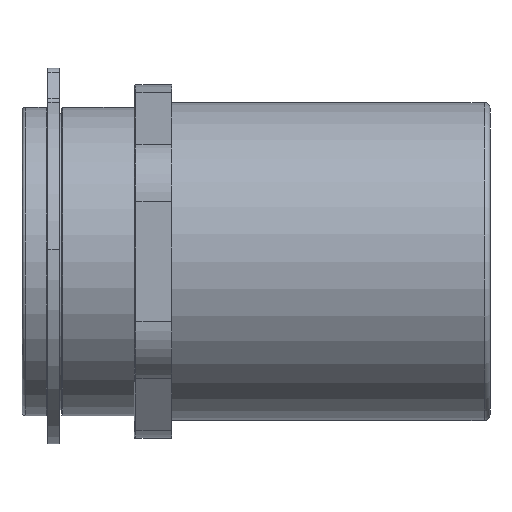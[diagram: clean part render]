
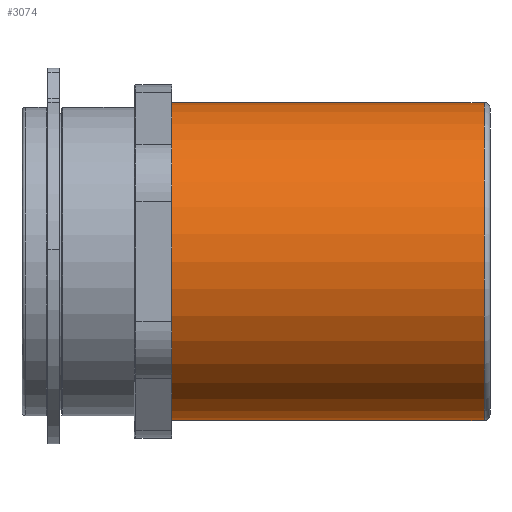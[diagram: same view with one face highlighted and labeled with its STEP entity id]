
A CAD part, left-side view. The second image highlights one B-rep face of the part: STEP entity #3074.
In plain terms, the highlighted cylindrical face has radius 26.979 mm (diameter 53.957 mm), a partial arc.
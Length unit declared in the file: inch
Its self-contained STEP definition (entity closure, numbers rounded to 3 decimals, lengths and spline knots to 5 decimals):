
#45 = ORIENTED_EDGE ( 'NONE', *, *, #2526, .T. ) ;
#88 = ORIENTED_EDGE ( 'NONE', *, *, #2521, .F. ) ;
#114 = ORIENTED_EDGE ( 'NONE', *, *, #2556, .T. ) ;
#116 = ORIENTED_EDGE ( 'NONE', *, *, #2517, .F. ) ;
#123 = EDGE_LOOP ( 'NONE', ( #88, #114, #45, #116 ) ) ;
#590 = FACE_OUTER_BOUND ( 'NONE', #123, .T. ) ;
#591 = CYLINDRICAL_SURFACE ( 'NONE', #2623, 1.06215 ) ;
#690 = VECTOR ( 'NONE', #1490, 39.37008 ) ;
#700 = CIRCLE ( 'NONE', #2335, 1.06215 ) ;
#707 = LINE ( 'NONE', #1491, #690 ) ;
#714 = LINE ( 'NONE', #1505, #755 ) ;
#742 = CIRCLE ( 'NONE', #2307, 1.06215 ) ;
#755 = VECTOR ( 'NONE', #1504, 39.37008 ) ;
#1388 = DIRECTION ( 'NONE',  ( 0., 0., 1. ) ) ;
#1389 = DIRECTION ( 'NONE',  ( 0., 1., 0. ) ) ;
#1399 = CARTESIAN_POINT ( 'NONE',  ( 0., -2.085, 0. ) ) ;
#1490 = DIRECTION ( 'NONE',  ( 0., 1., 0. ) ) ;
#1491 = CARTESIAN_POINT ( 'NONE',  ( 0., -2.125, 1.06215 ) ) ;
#1504 = DIRECTION ( 'NONE',  ( 0., 1., 0. ) ) ;
#1505 = CARTESIAN_POINT ( 'NONE',  ( 0., -2.125, -1.06215 ) ) ;
#1527 = DIRECTION ( 'NONE',  ( 0., 0., 1. ) ) ;
#1528 = DIRECTION ( 'NONE',  ( 0., 1., 0. ) ) ;
#1529 = CARTESIAN_POINT ( 'NONE',  ( 0., 0., 0. ) ) ;
#1693 = VERTEX_POINT ( 'NONE', #1891 ) ;
#1773 = CARTESIAN_POINT ( 'NONE',  ( 0., 0., 1.06215 ) ) ;
#1776 = CARTESIAN_POINT ( 'NONE',  ( 0., 0., -1.06215 ) ) ;
#1825 = VERTEX_POINT ( 'NONE', #1857 ) ;
#1857 = CARTESIAN_POINT ( 'NONE',  ( 0., -2.085, 1.06215 ) ) ;
#1891 = CARTESIAN_POINT ( 'NONE',  ( 0., -2.085, -1.06215 ) ) ;
#2083 = VERTEX_POINT ( 'NONE', #1776 ) ;
#2097 = VERTEX_POINT ( 'NONE', #1773 ) ;
#2307 = AXIS2_PLACEMENT_3D ( 'NONE', #1399, #1389, #1388 ) ;
#2335 = AXIS2_PLACEMENT_3D ( 'NONE', #1529, #1528, #1527 ) ;
#2517 = EDGE_CURVE ( 'NONE', #2083, #2097, #700, .T. ) ;
#2521 = EDGE_CURVE ( 'NONE', #1693, #2083, #714, .T. ) ;
#2526 = EDGE_CURVE ( 'NONE', #1825, #2097, #707, .T. ) ;
#2556 = EDGE_CURVE ( 'NONE', #1693, #1825, #742, .T. ) ;
#2623 = AXIS2_PLACEMENT_3D ( 'NONE', #2911, #2912, #2918 ) ;
#2911 = CARTESIAN_POINT ( 'NONE',  ( 0., -2.125, 0. ) ) ;
#2912 = DIRECTION ( 'NONE',  ( 0., 1., 0. ) ) ;
#2918 = DIRECTION ( 'NONE',  ( 0., 0., 1. ) ) ;
#3074 = ADVANCED_FACE ( 'NONE', ( #590 ), #591, .T. ) ;
